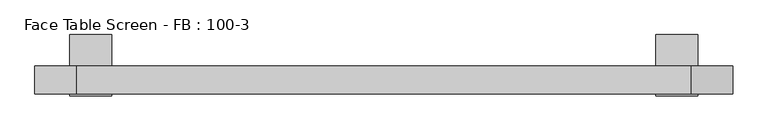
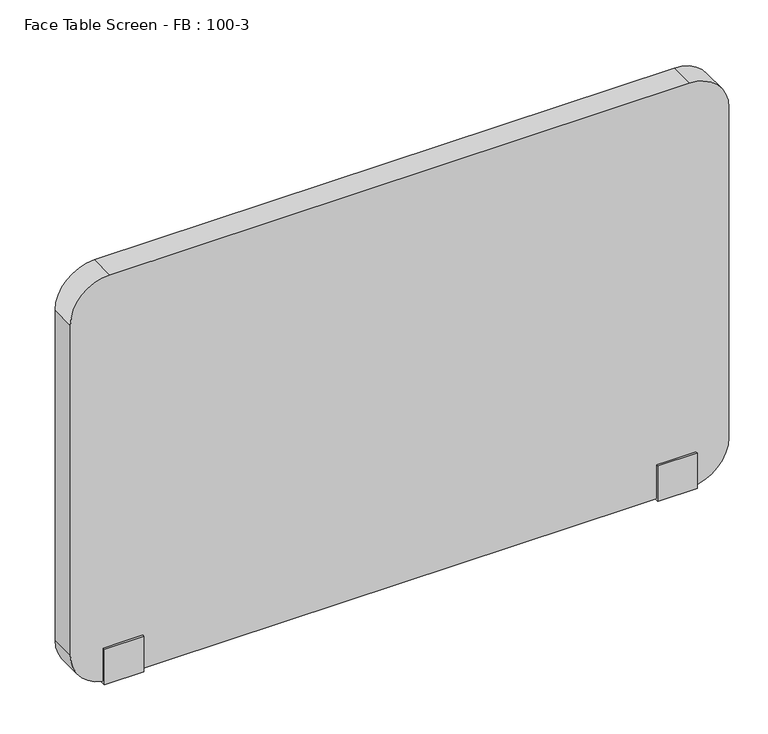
"""IFC4 building model written with IfcOpenShell, lengths in millimetres: furniture geometry, Face Table Screen - FB : 100-3."""

from ifc_helpers import new_model, si_unit, point, frame, frame_2d, origin, place, context, project, spatial, polyline, circle_curve, trimmed, segment, composite_curve, outline, extrude, source, transform, mapped, element, save


def face_table_screen_fb_100_3_3cfc66f3(model_context):
    return source(origin(), model_context, "Body", "SweptSolid", [
        extrude(outline(polyline([(-42.9999947, -156.0), (-42.9999997, -99.0433898), (-40.0, -99.0433898), (-40.0, -153.0), (0.0, -153.0), (0.0, -22.0), (45.0, -22.0), (45.0, -25.0433898), (3.0000062, -25.0433898), (2.9999947, -156.0), (-42.9999947, -156.0)])), frame((409.9863751, 0.0, 0.0), z_axis=(1.0, 0.0, 0.0), x_axis=(0.0, 1.0, 0.0)), (0.0, 0.0, 1.0), 60.0),
        extrude(outline(polyline([(-42.9999947, -156.0), (-42.9999997, -99.0433898), (-40.0, -99.0433898), (-40.0, -153.0), (0.0, -153.0), (0.0, -22.0), (45.0, -22.0), (45.0, -25.0433898), (3.0000062, -25.0433898), (2.9999947, -156.0), (-42.9999947, -156.0)])), frame((-430.0136249, 0.0, 0.0), z_axis=(1.0, 0.0, 0.0), x_axis=(0.0, 1.0, 0.0)), (0.0, 0.0, 1.0), 60.0),
        extrude(outline(composite_curve([segment(polyline([(497.0, 459.9863751), (497.0, -420.0136249)]), True, "CONTINUOUS"), segment(trimmed(circle_curve(frame_2d((437.0, -420.0136249)), 60.0), [point((497.0, -420.0136249))], [point((437.0, -480.0136249))], False, "CARTESIAN"), True, "CONTINUOUS"), segment(polyline([(437.0, -480.0136249), (-93.0, -480.0136249)]), True, "CONTINUOUS"), segment(trimmed(circle_curve(frame_2d((-93.0, -420.0136249)), 60.0), [point((-93.0, -480.0136249))], [point((-153.0, -420.0136249))], False, "CARTESIAN"), True, "CONTINUOUS"), segment(polyline([(-153.0, -420.0136249), (-153.0, 459.9863751)]), True, "CONTINUOUS"), segment(trimmed(circle_curve(frame_2d((-93.0, 459.9863751)), 60.0), [point((-153.0, 459.9863751))], [point((-93.0, 519.9863751))], False, "CARTESIAN"), True, "CONTINUOUS"), segment(polyline([(-93.0, 519.9863751), (437.0, 519.9863751)]), True, "CONTINUOUS"), segment(trimmed(circle_curve(frame_2d((437.0, 459.9863751)), 60.0), [point((437.0, 519.9863751))], [point((497.0, 459.9863751))], False, "CARTESIAN"), True, "CONTINUOUS")], self_intersect=False)), frame((0.0, -40.0, 0.0), z_axis=(0.0, 1.0, 0.0), x_axis=(0.0, 0.0, 1.0)), (0.0, 0.0, 1.0), 40.0),
    ])


if __name__ == "__main__":
    model = new_model("IFC4")
    model_context = context("Model", 3, world=origin())
    ifc_project = project(units=[si_unit("LENGTHUNIT", "METRE", prefix="MILLI")], contexts=[model_context])
    site = spatial("IfcSite", under=ifc_project)
    building = spatial("IfcBuilding", under=site)
    placement = place(None, origin())
    face_table_screen_fb_100_3_shape = face_table_screen_fb_100_3_3cfc66f3(model_context)
    element("IfcFurniture", 1, ObjectType="Face Table Screen - FB : 100-3", at=placement, inside=building, context=model_context, shape_type="MappedRepresentation", body=[
        mapped(face_table_screen_fb_100_3_shape, transform((0.0, 0.0, 0.0), x_axis=(1.0, 0.0, 0.0), y_axis=(0.0, 1.0, 0.0), z_axis=(0.0, 0.0, 1.0))),
    ])
    save(model, "model.ifc")
